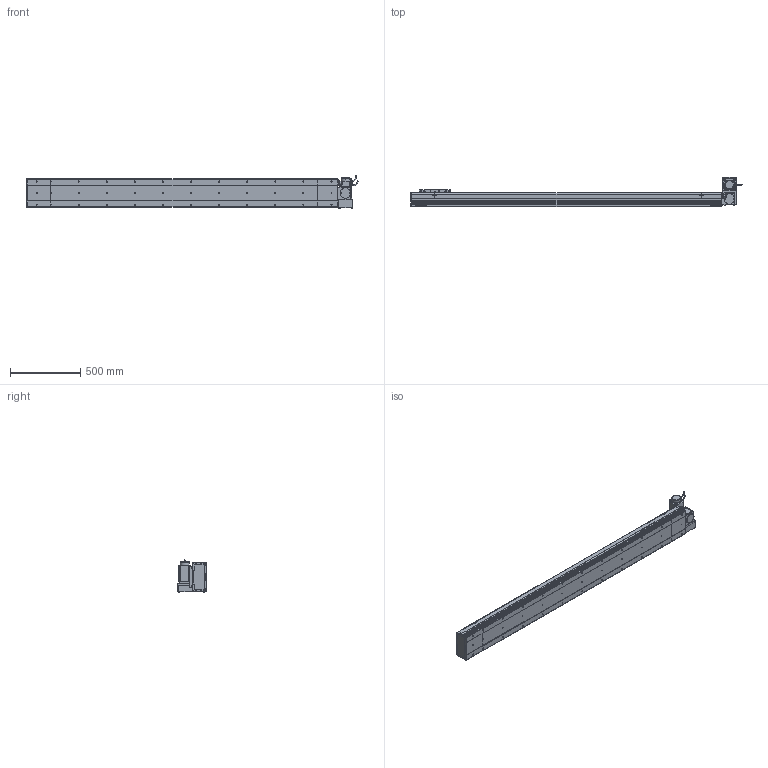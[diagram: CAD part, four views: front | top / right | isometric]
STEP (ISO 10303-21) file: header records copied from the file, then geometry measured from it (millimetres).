
FILE_DESCRIPTION (( 'STEP AP214' ), '1' );
FILE_NAME ('D20 CBH RT S1900.STEP', '2010-06-30T09:48:08', ( 'Conseil Régional Haute-Normandie' ), ( 'Conseil Régional Haute-Normandie' ), 'SwSTEP 2.0', 'SolidWorks 2010', '' );
FILE_SCHEMA (( 'AUTOMOTIVE_DESIGN' ));
Length unit declared in the file: millimetre
Products named in the file (31): Couvercle_Default; Corp Tail D20+100_Default; Tail D20+100_Default; Couvercle S1900_Default; Corp S1900_Default; Moteur motionking 90BLDC125A-640; Support moteur RT_Default; Corp D20 S1900_Default; avant 90BLDC125A-640; Conecteur2_Default; corps 90BLDC125A-640; Glissiere_Default; Chariot D20_Default; codeur 90BLDC125-640; Rondelle Cache D20 RT_Default; Support Chariot D20_Default; ecrou_Default; vis M5 L30_Default; Conecteur_Default; vis M5 L47_Default; Cache Support Moteur RT_Default; Plaque De Serrage D20_Default; Plaque de Bout Tail D20_Default; vis M5 L15_Default; Corp Tail D20 RT_Default; Head RT_Default; D20 CBH RT S1900; Plaque De Serrage D20 RT_Default; Plaque de Bout Head D20 RT_Default; Couvercle RT_Default
Assembly tree (68 placements, depth 4):
  D20 CBH RT S1900
    Corp D20 S1900_Default
      Corp S1900_Default
      Couvercle S1900_Default
    Head RT_Default
      vis M5 L15_Default  x14
      vis M5 L30_Default  x4
      Plaque de Bout Head D20 RT_Default
      Rondelle Cache D20 RT_Default  x3
      ecrou_Default  x4
      Corp Tail D20 RT_Default
      vis M5 L47_Default  x4
      Plaque De Serrage D20 RT_Default
      Support moteur RT_Default
      Couvercle RT_Default
      Cache Support Moteur RT_Default
      Moteur motionking 90BLDC125A-640
        Conecteur_Default
        codeur 90BLDC125-640
        avant 90BLDC125A-640
        corps 90BLDC125A-640
        Conecteur2_Default
    Tail D20+100_Default
      vis M5 L15_Default  x6
      Plaque de Bout Tail D20_Default
      Plaque De Serrage D20_Default
      Couvercle_Default
      Corp Tail D20+100_Default
    Chariot D20_Default
      vis M5 L15_Default  x8
      Chariot D20_Default
      Support Chariot D20_Default
      Glissiere_Default
Bounding box: 2364.45 x 206.5 x 229.7 mm (x, y, z)
Volume: 16292112.4 mm3; surface area: 3191992.3 mm2
Topology: 105 solids, 105 shells, 3820 faces, 9516 edges, 6178 vertices
Faces by surface type: plane 2131, bspline 806, cylinder 712, torus 95, cone 72, sphere 4
Entity records: 159590 total; most frequent: CARTESIAN_POINT 82346, ORIENTED_EDGE 15300, DIRECTION 11638, EDGE_CURVE 7650, VERTEX_POINT 5062, LINE 4954, VECTOR 4954, AXIS2_PLACEMENT_3D 3342
